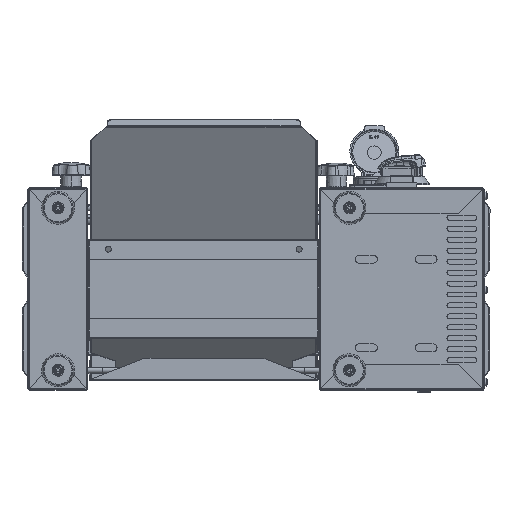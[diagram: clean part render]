
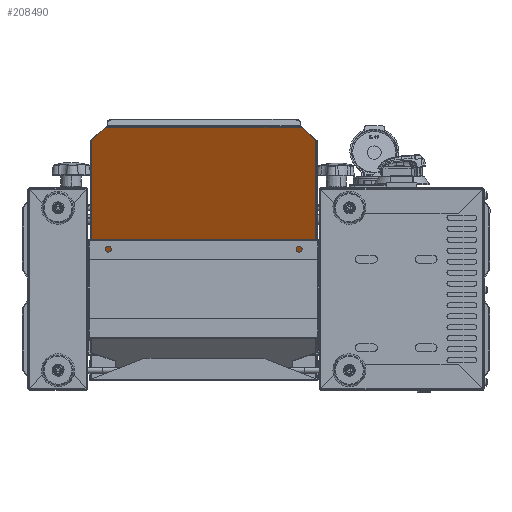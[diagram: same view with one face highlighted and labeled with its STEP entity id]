
A CAD part, front view. The second image highlights one B-rep face of the part: STEP entity #208490.
In plain terms, the highlighted planar face has unit normal (0, -0.874, -0.485).
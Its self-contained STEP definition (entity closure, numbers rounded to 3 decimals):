
#4320 = CARTESIAN_POINT ( 'NONE',  ( 3.6, -178.743, -46.873 ) ) ;
#10554 = CARTESIAN_POINT ( 'NONE',  ( 2.5, -287.285, 148.732 ) ) ;
#14676 = LINE ( 'NONE', #221175, #125892 ) ;
#19232 = VERTEX_POINT ( 'NONE', #10554 ) ;
#24847 = VECTOR ( 'NONE', #153526, 1000. ) ;
#26744 = ORIENTED_EDGE ( 'NONE', *, *, #44513, .F. ) ;
#31035 = EDGE_CURVE ( 'NONE', #190776, #71687, #14676, .T. ) ;
#32267 = CARTESIAN_POINT ( 'NONE',  ( 2.5, -178.743, -46.873 ) ) ;
#36143 = ORIENTED_EDGE ( 'NONE', *, *, #67266, .F. ) ;
#36960 = LINE ( 'NONE', #92816, #100815 ) ;
#41369 = DIRECTION ( 'NONE',  ( -1., 0., 0. ) ) ;
#43769 = CARTESIAN_POINT ( 'NONE',  ( 18.4, -295., 162.635 ) ) ;
#44513 = EDGE_CURVE ( 'NONE', #121562, #102293, #129108, .T. ) ;
#46292 = DIRECTION ( 'NONE',  ( 1., 0., 0. ) ) ;
#49028 = AXIS2_PLACEMENT_3D ( 'NONE', #68566, #207747, #102833 ) ;
#59851 = CARTESIAN_POINT ( 'NONE',  ( 3.6, -287.285, 148.732 ) ) ;
#59985 = DIRECTION ( 'NONE',  ( -0.707, -0.343, 0.618 ) ) ;
#64865 = DIRECTION ( 'NONE',  ( 0., 0.485, -0.874 ) ) ;
#66043 = VERTEX_POINT ( 'NONE', #225183 ) ;
#67234 = VECTOR ( 'NONE', #125124, 1000. ) ;
#67266 = EDGE_CURVE ( 'NONE', #19232, #125820, #143394, .T. ) ;
#68566 = CARTESIAN_POINT ( 'NONE',  ( 2.5, -178.696, -46.958 ) ) ;
#71687 = VERTEX_POINT ( 'NONE', #4320 ) ;
#83682 = VERTEX_POINT ( 'NONE', #139950 ) ;
#92286 = EDGE_CURVE ( 'NONE', #190776, #19232, #36960, .T. ) ;
#92816 = CARTESIAN_POINT ( 'NONE',  ( 2.5, -287.285, 148.732 ) ) ;
#94123 = VECTOR ( 'NONE', #134888, 1000. ) ;
#96945 = EDGE_CURVE ( 'NONE', #125820, #83682, #187758, .T. ) ;
#100815 = VECTOR ( 'NONE', #109956, 1000. ) ;
#101237 = ORIENTED_EDGE ( 'NONE', *, *, #92286, .F. ) ;
#102293 = VERTEX_POINT ( 'NONE', #128079 ) ;
#102833 = DIRECTION ( 'NONE',  ( 1., 0., 0. ) ) ;
#109956 = DIRECTION ( 'NONE',  ( -1., 0., 0. ) ) ;
#121562 = VERTEX_POINT ( 'NONE', #170871 ) ;
#122219 = ORIENTED_EDGE ( 'NONE', *, *, #31035, .T. ) ;
#123483 = EDGE_CURVE ( 'NONE', #121562, #83682, #195822, .T. ) ;
#123517 = VECTOR ( 'NONE', #46292, 1000. ) ;
#125124 = DIRECTION ( 'NONE',  ( 0.707, -0.343, 0.618 ) ) ;
#125820 = VERTEX_POINT ( 'NONE', #43769 ) ;
#125892 = VECTOR ( 'NONE', #64865, 1000. ) ;
#128079 = CARTESIAN_POINT ( 'NONE',  ( 228.9, -287.285, 148.732 ) ) ;
#129108 = LINE ( 'NONE', #213680, #164161 ) ;
#132949 = CARTESIAN_POINT ( 'NONE',  ( 2.5, -295., 162.635 ) ) ;
#134888 = DIRECTION ( 'NONE',  ( 1., 0., 0. ) ) ;
#136408 = LINE ( 'NONE', #174027, #24847 ) ;
#139950 = CARTESIAN_POINT ( 'NONE',  ( 214.1, -295., 162.635 ) ) ;
#142665 = ORIENTED_EDGE ( 'NONE', *, *, #123483, .T. ) ;
#143394 = LINE ( 'NONE', #215307, #67234 ) ;
#153526 = DIRECTION ( 'NONE',  ( 0., -0.485, 0.874 ) ) ;
#155223 = FACE_OUTER_BOUND ( 'NONE', #218472, .T. ) ;
#161163 = ORIENTED_EDGE ( 'NONE', *, *, #96945, .F. ) ;
#164161 = VECTOR ( 'NONE', #41369, 1000. ) ;
#170871 = CARTESIAN_POINT ( 'NONE',  ( 230., -287.285, 148.732 ) ) ;
#174027 = CARTESIAN_POINT ( 'NONE',  ( 228.9, -178.743, -46.873 ) ) ;
#179102 = ORIENTED_EDGE ( 'NONE', *, *, #179186, .T. ) ;
#179186 = EDGE_CURVE ( 'NONE', #71687, #66043, #188578, .T. ) ;
#182033 = VECTOR ( 'NONE', #59985, 1000. ) ;
#187758 = LINE ( 'NONE', #132949, #123517 ) ;
#188578 = LINE ( 'NONE', #32267, #94123 ) ;
#190776 = VERTEX_POINT ( 'NONE', #59851 ) ;
#195822 = LINE ( 'NONE', #216283, #182033 ) ;
#204953 = ORIENTED_EDGE ( 'NONE', *, *, #221385, .T. ) ;
#206638 = PLANE ( 'NONE',  #49028 ) ;
#207747 = DIRECTION ( 'NONE',  ( 0., 0.874, 0.485 ) ) ;
#208490 = ADVANCED_FACE ( 'NONE', ( #155223 ), #206638, .F. ) ;
#213680 = CARTESIAN_POINT ( 'NONE',  ( 2.5, -287.285, 148.732 ) ) ;
#215307 = CARTESIAN_POINT ( 'NONE',  ( 2.5, -287.285, 148.732 ) ) ;
#216283 = CARTESIAN_POINT ( 'NONE',  ( 228.15, -288.183, 150.35 ) ) ;
#218472 = EDGE_LOOP ( 'NONE', ( #101237, #122219, #179102, #204953, #26744, #142665, #161163, #36143 ) ) ;
#221175 = CARTESIAN_POINT ( 'NONE',  ( 3.6, -287.285, 148.732 ) ) ;
#221385 = EDGE_CURVE ( 'NONE', #66043, #102293, #136408, .T. ) ;
#225183 = CARTESIAN_POINT ( 'NONE',  ( 228.9, -178.743, -46.873 ) ) ;
